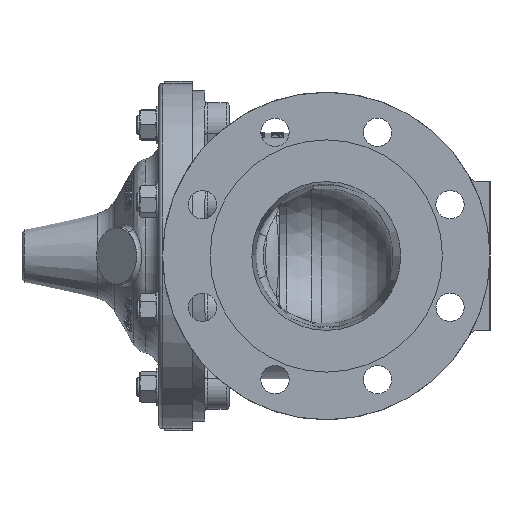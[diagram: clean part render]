
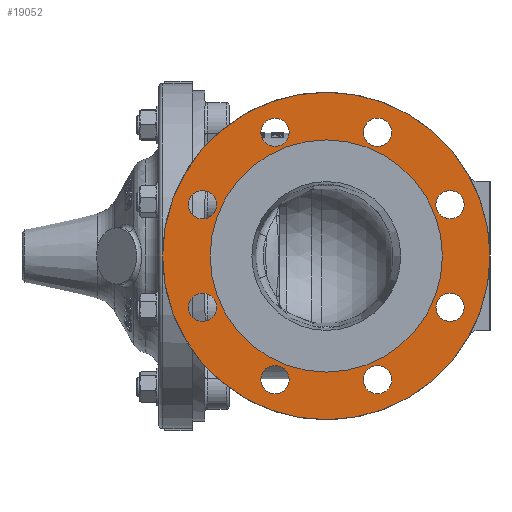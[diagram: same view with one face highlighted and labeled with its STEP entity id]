
A CAD part, left-side view. The second image highlights one B-rep face of the part: STEP entity #19052.
In plain terms, the highlighted planar face has unit normal (-1, 0, 0).
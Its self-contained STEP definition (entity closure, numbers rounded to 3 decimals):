
#2728=FACE_BOUND('',#5124,.T.);
#2729=FACE_BOUND('',#5125,.T.);
#2730=FACE_BOUND('',#5126,.T.);
#2731=FACE_BOUND('',#5127,.T.);
#2732=FACE_BOUND('',#5128,.T.);
#2733=FACE_BOUND('',#5129,.T.);
#2734=FACE_BOUND('',#5130,.T.);
#2735=FACE_BOUND('',#5131,.T.);
#2736=FACE_BOUND('',#5132,.T.);
#3049=PLANE('',#20500);
#3975=FACE_OUTER_BOUND('',#5123,.T.);
#5123=EDGE_LOOP('',(#14830,#14831));
#5124=EDGE_LOOP('',(#14832,#14833));
#5125=EDGE_LOOP('',(#14834,#14835));
#5126=EDGE_LOOP('',(#14836,#14837));
#5127=EDGE_LOOP('',(#14838,#14839));
#5128=EDGE_LOOP('',(#14840,#14841));
#5129=EDGE_LOOP('',(#14842,#14843));
#5130=EDGE_LOOP('',(#14844,#14845));
#5131=EDGE_LOOP('',(#14846,#14847));
#5132=EDGE_LOOP('',(#14848,#14849));
#6033=CIRCLE('',#20389,110.);
#6036=CIRCLE('',#20392,110.);
#6061=CIRCLE('',#20444,9.5);
#6062=CIRCLE('',#20445,9.5);
#6063=CIRCLE('',#20447,9.5);
#6064=CIRCLE('',#20448,9.5);
#6065=CIRCLE('',#20450,9.5);
#6066=CIRCLE('',#20451,9.5);
#6067=CIRCLE('',#20453,9.5);
#6068=CIRCLE('',#20454,9.5);
#6069=CIRCLE('',#20456,9.5);
#6070=CIRCLE('',#20457,9.5);
#6071=CIRCLE('',#20459,9.5);
#6072=CIRCLE('',#20460,9.5);
#6073=CIRCLE('',#20462,9.5);
#6074=CIRCLE('',#20463,9.5);
#6075=CIRCLE('',#20465,9.5);
#6076=CIRCLE('',#20466,9.5);
#6101=CIRCLE('',#20501,78.);
#6102=CIRCLE('',#20502,78.);
#7920=VERTEX_POINT('',#52441);
#7921=VERTEX_POINT('',#52442);
#7972=VERTEX_POINT('',#54247);
#7973=VERTEX_POINT('',#54248);
#7974=VERTEX_POINT('',#54253);
#7975=VERTEX_POINT('',#54254);
#7976=VERTEX_POINT('',#54259);
#7977=VERTEX_POINT('',#54260);
#7978=VERTEX_POINT('',#54265);
#7979=VERTEX_POINT('',#54266);
#7980=VERTEX_POINT('',#54271);
#7981=VERTEX_POINT('',#54272);
#7982=VERTEX_POINT('',#54277);
#7983=VERTEX_POINT('',#54278);
#7984=VERTEX_POINT('',#54283);
#7985=VERTEX_POINT('',#54284);
#7986=VERTEX_POINT('',#54289);
#7987=VERTEX_POINT('',#54290);
#8012=VERTEX_POINT('',#54360);
#8013=VERTEX_POINT('',#54361);
#10289=EDGE_CURVE('',#7920,#7921,#6033,.T.);
#10293=EDGE_CURVE('',#7921,#7920,#6036,.T.);
#10375=EDGE_CURVE('',#7972,#7973,#6061,.T.);
#10376=EDGE_CURVE('',#7973,#7972,#6062,.T.);
#10378=EDGE_CURVE('',#7974,#7975,#6063,.T.);
#10379=EDGE_CURVE('',#7975,#7974,#6064,.T.);
#10381=EDGE_CURVE('',#7976,#7977,#6065,.T.);
#10382=EDGE_CURVE('',#7977,#7976,#6066,.T.);
#10384=EDGE_CURVE('',#7978,#7979,#6067,.T.);
#10385=EDGE_CURVE('',#7979,#7978,#6068,.T.);
#10387=EDGE_CURVE('',#7980,#7981,#6069,.T.);
#10388=EDGE_CURVE('',#7981,#7980,#6070,.T.);
#10390=EDGE_CURVE('',#7982,#7983,#6071,.T.);
#10391=EDGE_CURVE('',#7983,#7982,#6072,.T.);
#10393=EDGE_CURVE('',#7984,#7985,#6073,.T.);
#10394=EDGE_CURVE('',#7985,#7984,#6074,.T.);
#10396=EDGE_CURVE('',#7986,#7987,#6075,.T.);
#10397=EDGE_CURVE('',#7987,#7986,#6076,.T.);
#10431=EDGE_CURVE('',#8012,#8013,#6101,.T.);
#10432=EDGE_CURVE('',#8013,#8012,#6102,.T.);
#14830=ORIENTED_EDGE('',*,*,#10289,.F.);
#14831=ORIENTED_EDGE('',*,*,#10293,.F.);
#14832=ORIENTED_EDGE('',*,*,#10375,.T.);
#14833=ORIENTED_EDGE('',*,*,#10376,.T.);
#14834=ORIENTED_EDGE('',*,*,#10378,.T.);
#14835=ORIENTED_EDGE('',*,*,#10379,.T.);
#14836=ORIENTED_EDGE('',*,*,#10381,.T.);
#14837=ORIENTED_EDGE('',*,*,#10382,.T.);
#14838=ORIENTED_EDGE('',*,*,#10384,.T.);
#14839=ORIENTED_EDGE('',*,*,#10385,.T.);
#14840=ORIENTED_EDGE('',*,*,#10387,.T.);
#14841=ORIENTED_EDGE('',*,*,#10388,.T.);
#14842=ORIENTED_EDGE('',*,*,#10390,.T.);
#14843=ORIENTED_EDGE('',*,*,#10391,.T.);
#14844=ORIENTED_EDGE('',*,*,#10393,.T.);
#14845=ORIENTED_EDGE('',*,*,#10394,.T.);
#14846=ORIENTED_EDGE('',*,*,#10396,.T.);
#14847=ORIENTED_EDGE('',*,*,#10397,.T.);
#14848=ORIENTED_EDGE('',*,*,#10431,.T.);
#14849=ORIENTED_EDGE('',*,*,#10432,.T.);
#19052=ADVANCED_FACE('',(#3975,#2728,#2729,#2730,#2731,#2732,#2733,#2734,
#2735,#2736),#3049,.F.);
#20389=AXIS2_PLACEMENT_3D('',#52443,#23209,#23210);
#20392=AXIS2_PLACEMENT_3D('',#52448,#23216,#23217);
#20444=AXIS2_PLACEMENT_3D('',#54249,#23338,#23339);
#20445=AXIS2_PLACEMENT_3D('',#54250,#23340,#23341);
#20447=AXIS2_PLACEMENT_3D('',#54255,#23345,#23346);
#20448=AXIS2_PLACEMENT_3D('',#54256,#23347,#23348);
#20450=AXIS2_PLACEMENT_3D('',#54261,#23352,#23353);
#20451=AXIS2_PLACEMENT_3D('',#54262,#23354,#23355);
#20453=AXIS2_PLACEMENT_3D('',#54267,#23359,#23360);
#20454=AXIS2_PLACEMENT_3D('',#54268,#23361,#23362);
#20456=AXIS2_PLACEMENT_3D('',#54273,#23366,#23367);
#20457=AXIS2_PLACEMENT_3D('',#54274,#23368,#23369);
#20459=AXIS2_PLACEMENT_3D('',#54279,#23373,#23374);
#20460=AXIS2_PLACEMENT_3D('',#54280,#23375,#23376);
#20462=AXIS2_PLACEMENT_3D('',#54285,#23380,#23381);
#20463=AXIS2_PLACEMENT_3D('',#54286,#23382,#23383);
#20465=AXIS2_PLACEMENT_3D('',#54291,#23387,#23388);
#20466=AXIS2_PLACEMENT_3D('',#54292,#23389,#23390);
#20500=AXIS2_PLACEMENT_3D('',#54359,#23466,#23467);
#20501=AXIS2_PLACEMENT_3D('',#54362,#23468,#23469);
#20502=AXIS2_PLACEMENT_3D('',#54363,#23470,#23471);
#23209=DIRECTION('center_axis',(1.,0.,0.));
#23210=DIRECTION('ref_axis',(0.,1.,0.));
#23216=DIRECTION('center_axis',(1.,0.,0.));
#23217=DIRECTION('ref_axis',(0.,1.,0.));
#23338=DIRECTION('center_axis',(1.,0.,0.));
#23339=DIRECTION('ref_axis',(0.,-0.707,-0.707));
#23340=DIRECTION('center_axis',(1.,0.,0.));
#23341=DIRECTION('ref_axis',(0.,-0.707,-0.707));
#23345=DIRECTION('center_axis',(1.,0.,0.));
#23346=DIRECTION('ref_axis',(0.,-1.,0.));
#23347=DIRECTION('center_axis',(1.,0.,0.));
#23348=DIRECTION('ref_axis',(0.,-1.,0.));
#23352=DIRECTION('center_axis',(1.,0.,0.));
#23353=DIRECTION('ref_axis',(0.,-0.707,0.707));
#23354=DIRECTION('center_axis',(1.,0.,0.));
#23355=DIRECTION('ref_axis',(0.,-0.707,0.707));
#23359=DIRECTION('center_axis',(1.,0.,0.));
#23360=DIRECTION('ref_axis',(0.,0.,
1.));
#23361=DIRECTION('center_axis',(1.,0.,0.));
#23362=DIRECTION('ref_axis',(0.,0.,
1.));
#23366=DIRECTION('center_axis',(1.,0.,0.));
#23367=DIRECTION('ref_axis',(0.,0.707,0.707));
#23368=DIRECTION('center_axis',(1.,0.,0.));
#23369=DIRECTION('ref_axis',(0.,0.707,0.707));
#23373=DIRECTION('center_axis',(1.,0.,0.));
#23374=DIRECTION('ref_axis',(0.,1.,0.));
#23375=DIRECTION('center_axis',(1.,0.,0.));
#23376=DIRECTION('ref_axis',(0.,1.,0.));
#23380=DIRECTION('center_axis',(1.,0.,0.));
#23381=DIRECTION('ref_axis',(0.,0.707,-0.707));
#23382=DIRECTION('center_axis',(1.,0.,0.));
#23383=DIRECTION('ref_axis',(0.,0.707,-0.707));
#23387=DIRECTION('center_axis',(1.,0.,0.));
#23388=DIRECTION('ref_axis',(0.,0.,
-1.));
#23389=DIRECTION('center_axis',(1.,0.,0.));
#23390=DIRECTION('ref_axis',(0.,0.,
-1.));
#23466=DIRECTION('center_axis',(1.,0.,0.));
#23467=DIRECTION('ref_axis',(0.,0.,
-1.));
#23468=DIRECTION('center_axis',(1.,0.,0.));
#23469=DIRECTION('ref_axis',(0.,1.,0.));
#23470=DIRECTION('center_axis',(1.,0.,0.));
#23471=DIRECTION('ref_axis',(0.,1.,0.));
#52441=CARTESIAN_POINT('',(-172.,13.55,0.));
#52442=CARTESIAN_POINT('',(-172.,-206.45,0.));
#52443=CARTESIAN_POINT('Origin',(-172.,-96.45,0.));
#52448=CARTESIAN_POINT('Origin',(-172.,-96.45,0.));
#54247=CARTESIAN_POINT('',(-172.,-68.726,76.432));
#54248=CARTESIAN_POINT('',(-172.,-55.291,89.867));
#54249=CARTESIAN_POINT('Origin',(-172.,-62.008,83.149));
#54250=CARTESIAN_POINT('Origin',(-172.,-62.008,83.149));
#54253=CARTESIAN_POINT('',(-172.,-22.801,34.442));
#54254=CARTESIAN_POINT('',(-172.,-3.801,34.442));
#54255=CARTESIAN_POINT('Origin',(-172.,-13.301,34.442));
#54256=CARTESIAN_POINT('Origin',(-172.,-13.301,34.442));
#54259=CARTESIAN_POINT('',(-172.,-20.018,-27.724));
#54260=CARTESIAN_POINT('',(-172.,-6.583,-41.159));
#54261=CARTESIAN_POINT('Origin',(-172.,-13.301,-34.442));
#54262=CARTESIAN_POINT('Origin',(-172.,-13.301,-34.442));
#54265=CARTESIAN_POINT('',(-172.,-62.008,-73.649));
#54266=CARTESIAN_POINT('',(-172.,-62.008,-92.649));
#54267=CARTESIAN_POINT('Origin',(-172.,-62.008,-83.149));
#54268=CARTESIAN_POINT('Origin',(-172.,-62.008,-83.149));
#54271=CARTESIAN_POINT('',(-172.,-124.174,-76.432));
#54272=CARTESIAN_POINT('',(-172.,-137.609,-89.867));
#54273=CARTESIAN_POINT('Origin',(-172.,-130.892,-83.149));
#54274=CARTESIAN_POINT('Origin',(-172.,-130.892,-83.149));
#54277=CARTESIAN_POINT('',(-172.,-170.099,-34.442));
#54278=CARTESIAN_POINT('',(-172.,-189.099,-34.442));
#54279=CARTESIAN_POINT('Origin',(-172.,-179.599,-34.442));
#54280=CARTESIAN_POINT('Origin',(-172.,-179.599,-34.442));
#54283=CARTESIAN_POINT('',(-172.,-172.882,27.724));
#54284=CARTESIAN_POINT('',(-172.,-186.317,41.159));
#54285=CARTESIAN_POINT('Origin',(-172.,-179.599,34.442));
#54286=CARTESIAN_POINT('Origin',(-172.,-179.599,34.442));
#54289=CARTESIAN_POINT('',(-172.,-130.892,73.649));
#54290=CARTESIAN_POINT('',(-172.,-130.892,92.649));
#54291=CARTESIAN_POINT('Origin',(-172.,-130.892,83.149));
#54292=CARTESIAN_POINT('Origin',(-172.,-130.892,83.149));
#54359=CARTESIAN_POINT('Origin',(-172.,-2.45,0.));
#54360=CARTESIAN_POINT('',(-172.,-18.45,0.));
#54361=CARTESIAN_POINT('',(-172.,-174.45,0.));
#54362=CARTESIAN_POINT('Origin',(-172.,-96.45,0.));
#54363=CARTESIAN_POINT('Origin',(-172.,-96.45,0.));
